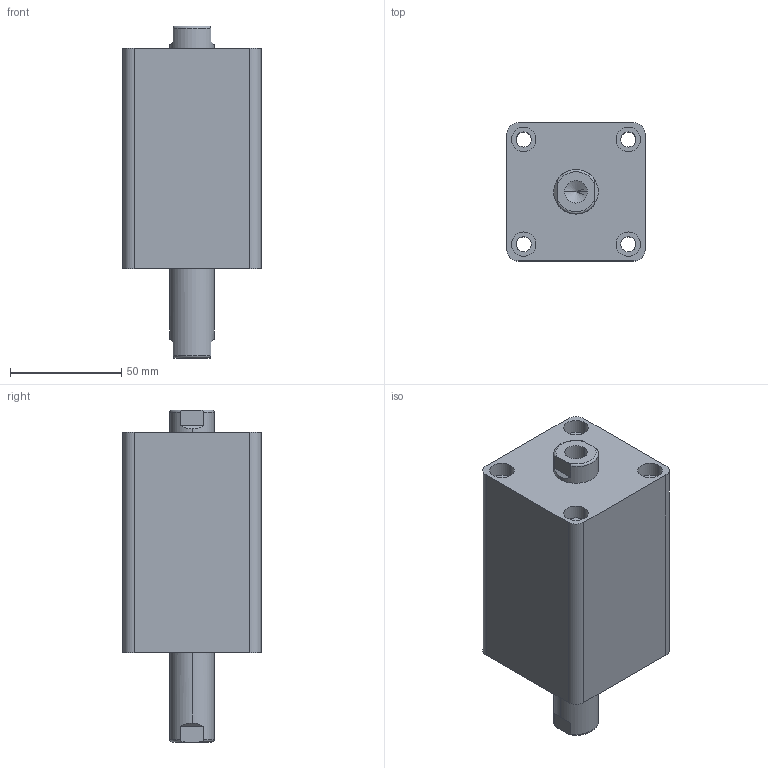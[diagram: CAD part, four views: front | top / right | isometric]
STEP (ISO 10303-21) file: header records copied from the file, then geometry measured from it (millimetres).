
FILE_DESCRIPTION (( 'STEP AP203' ), '1' );
FILE_NAME ('HTB-SW32-30N.STEP', '2019-10-07T08:51:58', ( '微软用户' ), ( '微软中国' ), 'SwSTEP 2.0', 'SolidWorks 2012', '' );
FILE_SCHEMA (( 'CONFIG_CONTROL_DESIGN' ));
Length unit declared in the file: millimetre
Products named in the file (3): HTB-SW32-30N; HTB-SW32-30N活塞杆; HTB-SW32-30掛极
Assembly tree (2 placements, depth 2):
  HTB-SW32-30N
    HTB-SW32-30掛极
    HTB-SW32-30N活塞杆
Bounding box: 62 x 62 x 149 mm (x, y, z)
Volume: 356846 mm3; surface area: 61787.8 mm2
Topology: 2 solids, 2 shells, 100 faces, 228 edges, 146 vertices
Faces by surface type: cylinder 48, plane 32, torus 12, cone 8
Entity records: 3237 total; most frequent: CARTESIAN_POINT 595, DIRECTION 542, ORIENTED_EDGE 448, AXIS2_PLACEMENT_3D 229, EDGE_CURVE 224, VERTEX_POINT 146, EDGE_LOOP 128, CIRCLE 124
